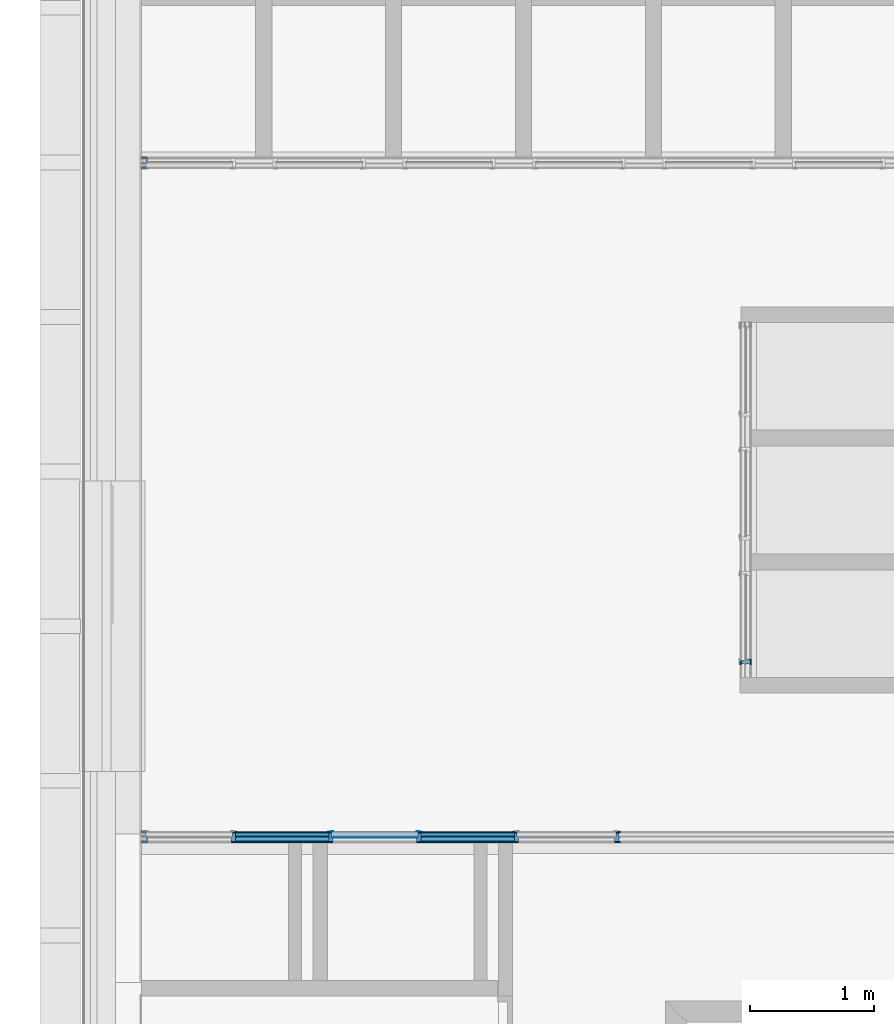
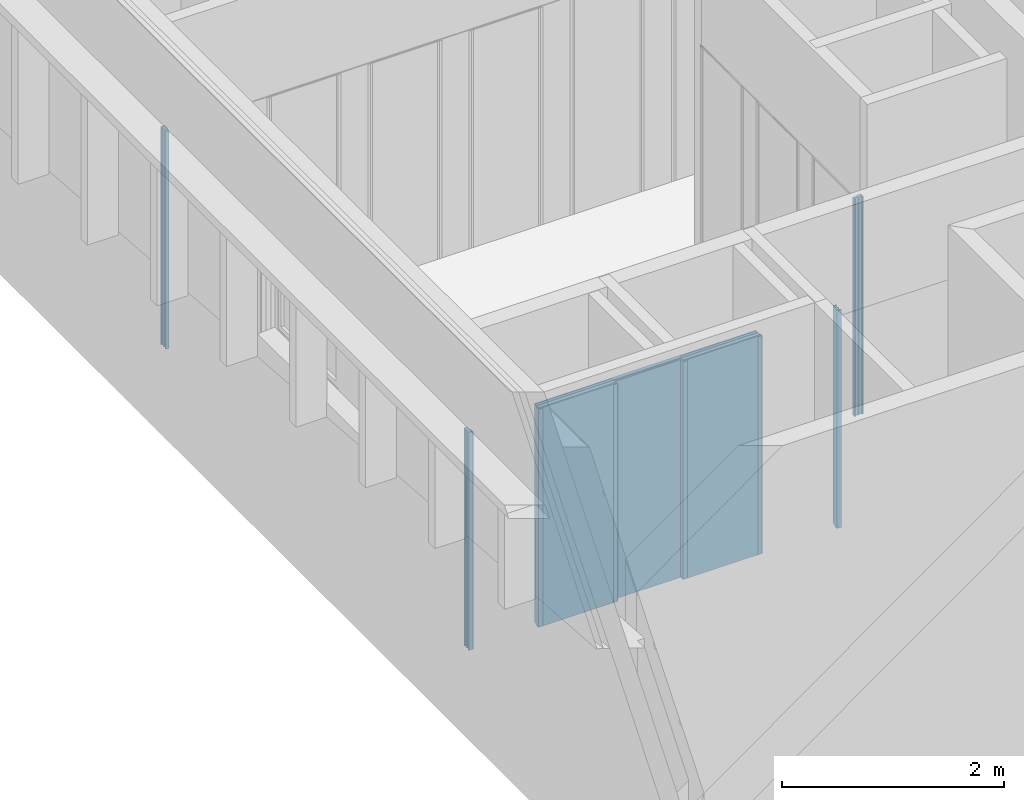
# One storey, part 18 of 89: 26 building element parts, 14 elements without a shape of their own.
"""IFC2X3 building model written with IfcOpenShell, lengths in millimetres."""

from ifc_helpers import new_model, entity, si_unit, converted_unit, derived_unit, money_unit, direction, frame, origin_with_axes, place, context, subcontext, project, spatial, open_shell, faceted_brep, surface_model, source, transform, mapped, material, type_object, element, aggregate, save


model = new_model("IFC2X3")

# Units and contexts
model_context = context("Model", 3, precision=0.01, world=origin_with_axes(), true_north=direction((0.0, 1.0)))
body_context = subcontext(model_context, "Body", "Model", "MODEL_VIEW")
ifc_project = project(units=[si_unit("LENGTHUNIT", "METRE", prefix="MILLI"), si_unit("AREAUNIT", "SQUARE_METRE"), si_unit("VOLUMEUNIT", "CUBIC_METRE"), converted_unit("PLANEANGLEUNIT", "DEGREE", entity("IfcPlaneAngleMeasure", 0.0174532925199), si_unit("PLANEANGLEUNIT", "RADIAN"), dimensions=[0, 0, 0, 0, 0, 0, 0]), si_unit("SOLIDANGLEUNIT", "STERADIAN"), money_unit("EUR"), converted_unit("TIMEUNIT", "Year", entity("IfcTimeMeasure", 31556926.0), si_unit("TIMEUNIT", "SECOND"), dimensions=[0, 0, 1, 0, 0, 0, 0]), si_unit("MASSUNIT", "GRAM", prefix="KILO"), si_unit("THERMODYNAMICTEMPERATUREUNIT", "DEGREE_CELSIUS"), si_unit("LUMINOUSINTENSITYUNIT", "LUMEN"), si_unit("ENERGYUNIT", "JOULE", prefix="MEGA"), derived_unit("THERMALCONDUCTANCEUNIT", [(si_unit("POWERUNIT", "WATT"), 1), (si_unit("LENGTHUNIT", "METRE"), -1), (si_unit("THERMODYNAMICTEMPERATUREUNIT", "KELVIN"), -1)]), derived_unit("SPECIFICHEATCAPACITYUNIT", [(si_unit("ENERGYUNIT", "JOULE"), 1), (si_unit("MASSUNIT", "GRAM", prefix="KILO"), -1), (si_unit("THERMODYNAMICTEMPERATUREUNIT", "KELVIN"), -1)]), derived_unit("MASSDENSITYUNIT", [(si_unit("MASSUNIT", "GRAM", prefix="KILO"), 1), (si_unit("VOLUMEUNIT", "CUBIC_METRE"), -1)])], contexts=[model_context])

# Site, building, storey
site_placement = place(None, origin_with_axes())
site = spatial("IfcSite", under=ifc_project, at=site_placement, Name="Puškini 31, Narva", CompositionType="ELEMENT")
building_placement = place(site_placement, origin_with_axes())
building = spatial("IfcBuilding", under=site, at=building_placement, Name="Narva Riigigümnaasium", CompositionType="ELEMENT")
storey_placement = place(building_placement, frame((0.0, 0.0, -3300.0), z_axis=(0.0, 0.0, 1.0), x_axis=(1.0, 0.0, 0.0)))
storey = spatial("IfcBuildingStorey", under=building, at=storey_placement, Name="1.korrus -3.3", CompositionType="ELEMENT", Elevation=-3300.0)

# Curtain wall, member, building element part
curtain_wall_type = type_object("IfcCurtainWallType", Name="Curtain Wall Type", PredefinedType="NOTDEFINED")
curtain_wall_1_placement = place(storey_placement, frame((33249.9999781, 201010.999711, -1.71671428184e-05), z_axis=(0.0, 0.0, 1.0), x_axis=(1.0, 0.0, 0.0)))
curtain_wall_1 = element("IfcCurtainWall", 1, at=curtain_wall_1_placement, inside=storey, type_object=curtain_wall_type, Name="SUS-02")
member_type_1 = type_object("IfcMemberType", Name="SA-Siseuksesüsteem-P 46 x 0", PredefinedType="MULLION")
member_1_placement = place(curtain_wall_1_placement, frame((0.0, -350.000000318, 0.0), z_axis=(0.0, 0.0, 1.0), x_axis=(0.0, -1.0, 0.0)))
member_1 = element("IfcMember", 2, at=member_1_placement, type_object=member_type_1, Name="Frame-SA-Siseuks-035", ObjectType="MULLION")
aggregate(curtain_wall_1, [member_1])
ifc_material_1 = material(Name="MDF")
shared_shape_1 = source(origin_with_axes(), body_context, "Body", "Brep", [
    faceted_brep([(33.9999997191, 9.99997870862, 0.0), (1.99999958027, 10.0000006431, 0.0), (1.99999958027, 10.0000006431, 2390.00000263), (33.9999997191, 9.99997870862, 2390.00000263), (33.9999997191, 0.0, 0.0), (1.99999958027, 0.0, 0.0), (1.99999958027, 0.0, 2390.00000263), (33.9999997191, 0.0, 2390.00000263)], [[[0, 1, 2, 3]], [[0, 4, 5, 1]], [[1, 5, 6, 2]], [[3, 2, 6, 7]], [[4, 0, 3, 7]], [[5, 4, 7, 6]]]),
    faceted_brep([(33.9999997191, 91.9999779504, 0.0), (-10.0000294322, 91.9999779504, 0.0), (-10.0000294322, 91.9999779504, 2390.00000263), (33.9999997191, 91.9999779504, 2390.00000263), (33.9999997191, 81.9999773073, 0.0), (-10.0000294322, 81.9999773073, 0.0), (-10.0000294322, 81.9999773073, 2390.00000263), (33.9999997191, 81.9999773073, 2390.00000263)], [[[0, 1, 2, 3]], [[0, 4, 5, 1]], [[1, 5, 6, 2]], [[3, 2, 6, 7]], [[4, 0, 3, 7]], [[5, 4, 7, 6]]]),
])
building_element_part_1_placement = place(member_1_placement, origin_with_axes())
building_element_part_1 = element("IfcBuildingElementPart", 3, at=building_element_part_1_placement, material=ifc_material_1, Name="MDF", context=body_context, shape_type="MappedRepresentation", body=[
    mapped(shared_shape_1, transform((0.0, 0.0, 0.0))),
])

# Curtain wall, members, building element parts
curtain_wall_2_placement = place(storey_placement, frame((28798.9958137, 199279.999716, 0.0), z_axis=(0.0, 0.0, 1.0), x_axis=(1.0, 0.0, 0.0)))
curtain_wall_2 = element("IfcCurtainWall", 4, at=curtain_wall_2_placement, inside=storey, type_object=curtain_wall_type, Name="SUS-01")
member_2_placement = place(curtain_wall_2_placement, frame((-350.004185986, 0.0, 0.0), z_axis=(0.0, 0.0, 1.0), x_axis=(-1.0, 0.0, 0.0)))
member_2 = element("IfcMember", 5, at=member_2_placement, type_object=member_type_1, Name="Frame-SA-Siseuks-038", ObjectType="MULLION")
building_element_part_2_placement = place(member_2_placement, origin_with_axes())
building_element_part_2 = element("IfcBuildingElementPart", 6, at=building_element_part_2_placement, material=ifc_material_1, Name="MDF", context=body_context, shape_type="MappedRepresentation", body=[
    mapped(shared_shape_1, transform((0.0, 0.0, 0.0))),
])
member_3_placement = place(curtain_wall_2_placement, frame((1150.00418599, 0.0, 0.0), z_axis=(0.0, 0.0, 1.0), x_axis=(-1.0, 0.0, 0.0)))
member_3 = element("IfcMember", 7, at=member_3_placement, type_object=member_type_1, Name="Frame-SA-Siseuks-039", ObjectType="MULLION")
building_element_part_3_placement = place(member_3_placement, origin_with_axes())
building_element_part_3 = element("IfcBuildingElementPart", 8, at=building_element_part_3_placement, material=ifc_material_1, Name="MDF", context=body_context, shape_type="MappedRepresentation", body=[
    mapped(shared_shape_1, transform((0.0, 0.0, 0.0))),
])
member_4_placement = place(curtain_wall_2_placement, frame((2650.00418599, 0.0, 0.0), z_axis=(0.0, 0.0, 1.0), x_axis=(-1.0, 0.0, 0.0)))
member_4 = element("IfcMember", 9, at=member_4_placement, type_object=member_type_1, Name="Frame-SA-Siseuks-040", ObjectType="MULLION")
building_element_part_4_placement = place(member_4_placement, origin_with_axes())
building_element_part_4 = element("IfcBuildingElementPart", 10, at=building_element_part_4_placement, material=ifc_material_1, Name="MDF", context=body_context, shape_type="MappedRepresentation", body=[
    mapped(shared_shape_1, transform((0.0, 0.0, 0.0))),
])

# Building element part
ifc_material_2 = material(Name="Alumiiniumprofiil")
shared_shape_2 = source(origin_with_axes(), body_context, "Body", "Brep", [
    faceted_brep([(-12.0000002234, 47.5000006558, 0.0), (0.0, 47.5000006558, 0.0), (0.0, 47.5000006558, 2390.00000263), (-12.0000002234, 47.5000006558, 2390.00000263), (-12.0000002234, 91.9999779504, 0.0), (-10.0000006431, 91.9999779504, 0.0), (-10.0000294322, 81.9999773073, 0.0), (-9.99999927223, 81.5000003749, 0.0), (24.2499991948, 81.5000003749, 0.0), (33.9999997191, 81.5000003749, 0.0), (33.9999997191, 78.0000000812, 0.0), (22.4999997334, 78.0000000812, 0.0), (22.4999997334, 47.600000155, 0.0), (33.9999997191, 47.600000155, 0.0), (33.9999997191, 44.3999997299, 0.0), (22.4999997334, 44.3999997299, 0.0), (22.4999997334, 13.9999998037, 0.0), (33.9999997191, 13.9999998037, 0.0), (33.9999997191, 9.99997870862, 0.0), (32.0000001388, 9.99997870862, 0.0), (32.0000001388, 10.49999951, 0.0), (2.00000095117, 10.49999951, 0.0), (1.99999958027, 10.0000006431, 0.0), (2.00000095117, 0.0, 0.0), (0.0, 0.0, 0.0), (0.0, 32.9000011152, 0.0), (0.0, 32.9000011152, 2390.00000263), (0.0, 0.0, 2390.00000263), (2.00000095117, 0.0, 2390.00000263), (1.99999958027, 10.0000006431, 2390.00000263), (2.00000095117, 10.49999951, 2390.00000263), (32.0000001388, 10.49999951, 2390.00000263), (32.0000001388, 9.99997870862, 2390.00000263), (33.9999997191, 9.99997870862, 2390.00000263), (33.9999997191, 13.9999998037, 2390.00000263), (22.4999997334, 13.9999998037, 2390.00000263), (22.4999997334, 44.3999997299, 2390.00000263), (33.9999997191, 44.3999997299, 2390.00000263), (33.9999997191, 47.600000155, 2390.00000263), (22.4999997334, 47.600000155, 2390.00000263), (22.4999997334, 78.0000000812, 2390.00000263), (33.9999997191, 78.0000000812, 2390.00000263), (33.9999997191, 81.5000003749, 2390.00000263), (24.2499991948, 81.5000003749, 2390.00000263), (-9.99999927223, 81.5000003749, 2390.00000263), (-10.0000294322, 81.9999773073, 2390.00000263), (-10.0000006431, 91.9999779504, 2390.00000263), (-12.0000002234, 91.9999779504, 2390.00000263)], [[[0, 1, 2, 3]], [[0, 4, 5, 6, 7, 8, 9, 10, 11, 12, 13, 14, 15, 16, 17, 18, 19, 20, 21, 22, 23, 24, 25, 1]], [[1, 25, 26, 2]], [[3, 2, 26, 27, 28, 29, 30, 31, 32, 33, 34, 35, 36, 37, 38, 39, 40, 41, 42, 43, 44, 45, 46, 47]], [[4, 0, 3, 47]], [[5, 4, 47, 46]], [[6, 5, 46, 45]], [[7, 6, 45, 44]], [[8, 7, 44, 43]], [[9, 8, 43, 42]], [[10, 9, 42, 41]], [[11, 10, 41, 40]], [[12, 11, 40, 39]], [[13, 12, 39, 38]], [[14, 13, 38, 37]], [[15, 14, 37, 36]], [[16, 15, 36, 35]], [[17, 16, 35, 34]], [[18, 17, 34, 33]], [[19, 18, 33, 32]], [[20, 19, 32, 31]], [[21, 20, 31, 30]], [[22, 21, 30, 29]], [[23, 22, 29, 28]], [[24, 23, 28, 27]], [[25, 24, 27, 26]]]),
])
building_element_part_5_placement = place(member_1_placement, origin_with_axes())
building_element_part_5 = element("IfcBuildingElementPart", 11, at=building_element_part_5_placement, material=ifc_material_2, Name="Alumiiniumprofiil", context=body_context, shape_type="MappedRepresentation", body=[
    mapped(shared_shape_2, transform((0.0, 0.0, 0.0))),
])

aggregate(member_1, [building_element_part_1, building_element_part_5])

building_element_part_6_placement = place(member_2_placement, origin_with_axes())
building_element_part_6 = element("IfcBuildingElementPart", 12, at=building_element_part_6_placement, material=ifc_material_2, Name="Alumiiniumprofiil", context=body_context, shape_type="MappedRepresentation", body=[
    mapped(shared_shape_2, transform((0.0, 0.0, 0.0))),
])

aggregate(member_2, [building_element_part_2, building_element_part_6])

building_element_part_7_placement = place(member_3_placement, origin_with_axes())
building_element_part_7 = element("IfcBuildingElementPart", 13, at=building_element_part_7_placement, material=ifc_material_2, Name="Alumiiniumprofiil", context=body_context, shape_type="MappedRepresentation", body=[
    mapped(shared_shape_2, transform((0.0, 0.0, 0.0))),
])

aggregate(member_3, [building_element_part_3, building_element_part_7])

building_element_part_8_placement = place(member_4_placement, origin_with_axes())
building_element_part_8 = element("IfcBuildingElementPart", 14, at=building_element_part_8_placement, material=ifc_material_2, Name="Alumiiniumprofiil", context=body_context, shape_type="MappedRepresentation", body=[
    mapped(shared_shape_2, transform((0.0, 0.0, 0.0))),
])

aggregate(member_4, [building_element_part_4, building_element_part_8])

# Member, building element part
member_type_2 = type_object("IfcMemberType", Name="SA-Siseuksesüsteem-V 46 x 0", PredefinedType="MULLION")
member_5_placement = place(curtain_wall_2_placement, frame((350.004185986, 0.0, 0.0), z_axis=(0.0, 0.0, 1.0), x_axis=(-1.0, 0.0, 0.0)))
member_5 = element("IfcMember", 15, at=member_5_placement, type_object=member_type_2, Name="Frame-New-Frame-039", ObjectType="MULLION")
shared_shape_3 = source(origin_with_axes(), body_context, "Body", "Brep", [
    faceted_brep([(-1.99999958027, 10.0000006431, 0.0), (-33.9999997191, 9.99997870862, 0.0), (-33.9999997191, 9.99997870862, 2390.00000263), (-1.99999958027, 10.0000006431, 2390.00000263), (-2.00000095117, 0.0, 0.0), (-33.9999997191, 0.0, 0.0), (-33.9999997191, 0.0, 2390.00000263), (-2.00000095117, 0.0, 2390.00000263)], [[[0, 1, 2, 3]], [[0, 4, 5, 1]], [[1, 5, 6, 2]], [[3, 2, 6, 7]], [[4, 0, 3, 7]], [[5, 4, 7, 6]]]),
    faceted_brep([(10.0000006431, 91.9999779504, 0.0), (-33.9999997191, 91.9999779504, 0.0), (-33.9999997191, 91.9999779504, 2390.00000263), (10.0000006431, 91.9999779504, 2390.00000263), (10.0000294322, 81.9999773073, 0.0), (-33.9999997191, 81.9999773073, 0.0), (-33.9999997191, 81.9999773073, 2390.00000263), (10.0000294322, 81.9999773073, 2390.00000263)], [[[0, 1, 2, 3]], [[0, 4, 5, 1]], [[1, 5, 6, 2]], [[3, 2, 6, 7]], [[4, 0, 3, 7]], [[5, 4, 7, 6]]]),
])
building_element_part_9_placement = place(member_5_placement, origin_with_axes())
building_element_part_9 = element("IfcBuildingElementPart", 16, at=building_element_part_9_placement, material=ifc_material_1, Name="MDF", context=body_context, shape_type="MappedRepresentation", body=[
    mapped(shared_shape_3, transform((0.0, 0.0, 0.0))),
])

member_6_placement = place(curtain_wall_2_placement, frame((1850.00418599, 0.0, 0.0), z_axis=(0.0, 0.0, 1.0), x_axis=(-1.0, 0.0, 0.0)))
member_6 = element("IfcMember", 17, at=member_6_placement, type_object=member_type_2, Name="Frame-New-Frame-040", ObjectType="MULLION")
building_element_part_10_placement = place(member_6_placement, origin_with_axes())
building_element_part_10 = element("IfcBuildingElementPart", 18, at=building_element_part_10_placement, material=ifc_material_1, Name="MDF", context=body_context, shape_type="MappedRepresentation", body=[
    mapped(shared_shape_3, transform((0.0, 0.0, 0.0))),
])

member_7_placement = place(curtain_wall_2_placement, frame((3450.00418599, 0.0, 0.0), z_axis=(0.0, 0.0, 1.0), x_axis=(-1.0, 0.0, 0.0)))
member_7 = element("IfcMember", 19, at=member_7_placement, type_object=member_type_2, Name="Frame-New-Frame-041", ObjectType="MULLION")
building_element_part_11_placement = place(member_7_placement, origin_with_axes())
building_element_part_11 = element("IfcBuildingElementPart", 20, at=building_element_part_11_placement, material=ifc_material_1, Name="MDF", context=body_context, shape_type="MappedRepresentation", body=[
    mapped(shared_shape_3, transform((0.0, 0.0, 0.0))),
])

# Curtain wall, member, building element part
curtain_wall_3_placement = place(storey_placement, frame((34541.9999996, 204639.999743, 1.06559201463e-05), z_axis=(0.0, 0.0, 1.0), x_axis=(1.0, 0.0, 0.0)))
curtain_wall_3 = element("IfcCurtainWall", 21, at=curtain_wall_3_placement, inside=storey, type_object=curtain_wall_type, Name="SUS-03")
member_type_3 = type_object("IfcMemberType", Name="SA-Siseuksesüsteem-V 46 x -10", PredefinedType="MULLION")
member_8_placement = place(curtain_wall_3_placement, frame((-6093.17516676, 0.0, -1.06559197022e-05), z_axis=(0.0, 0.0, 1.0), x_axis=(1.0, 0.0, 0.0)))
member_8 = element("IfcMember", 22, at=member_8_placement, type_object=member_type_3, Name="Frame-SA-Siseuks-035", ObjectType="MULLION")
aggregate(curtain_wall_3, [member_8])
building_element_part_12_placement = place(member_8_placement, origin_with_axes())
building_element_part_12 = element("IfcBuildingElementPart", 23, at=building_element_part_12_placement, material=ifc_material_1, Name="MDF", context=body_context, shape_type="MappedRepresentation", body=[
    mapped(shared_shape_3, transform((0.0, 0.0, 0.0))),
])

# Building element part
shared_shape_4 = source(origin_with_axes(), body_context, "Body", "Brep", [
    faceted_brep([(12.0000002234, 47.5000006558, 0.0), (12.0000002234, 91.9999779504, 0.0), (12.0000002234, 91.9999779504, 2390.00000263), (12.0000002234, 47.5000006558, 2390.00000263), (0.0, 47.5000006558, 0.0), (0.0, 32.9000011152, 0.0), (0.0, 0.0, 0.0), (-2.00000095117, 0.0, 0.0), (-1.99999958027, 10.0000006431, 0.0), (-2.00000095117, 10.49999951, 0.0), (-32.0000001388, 10.49999951, 0.0), (-32.0000001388, 9.99997870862, 0.0), (-33.9999997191, 9.99997870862, 0.0), (-33.9999997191, 13.9999998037, 0.0), (-22.4999997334, 13.9999998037, 0.0), (-22.4999997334, 44.3999997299, 0.0), (-33.9999997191, 44.3999997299, 0.0), (-33.9999997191, 47.600000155, 0.0), (-22.4999997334, 47.600000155, 0.0), (-22.4999997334, 78.0000000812, 0.0), (-33.9999997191, 78.0000000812, 0.0), (-33.9999997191, 81.5000003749, 0.0), (-24.2499991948, 81.5000003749, 0.0), (9.99999927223, 81.5000003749, 0.0), (10.0000294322, 81.9999773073, 0.0), (10.0000006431, 91.9999779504, 0.0), (10.0000006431, 91.9999779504, 2390.00000263), (10.0000294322, 81.9999773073, 2390.00000263), (9.99999927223, 81.5000003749, 2390.00000263), (-24.2499991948, 81.5000003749, 2390.00000263), (-33.9999997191, 81.5000003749, 2390.00000263), (-33.9999997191, 78.0000000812, 2390.00000263), (-22.4999997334, 78.0000000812, 2390.00000263), (-22.4999997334, 47.600000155, 2390.00000263), (-33.9999997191, 47.600000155, 2390.00000263), (-33.9999997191, 44.3999997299, 2390.00000263), (-22.4999997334, 44.3999997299, 2390.00000263), (-22.4999997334, 13.9999998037, 2390.00000263), (-33.9999997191, 13.9999998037, 2390.00000263), (-33.9999997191, 9.99997870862, 2390.00000263), (-32.0000001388, 9.99997870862, 2390.00000263), (-32.0000001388, 10.49999951, 2390.00000263), (-2.00000095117, 10.49999951, 2390.00000263), (-1.99999958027, 10.0000006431, 2390.00000263), (-2.00000095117, 0.0, 2390.00000263), (0.0, 0.0, 2390.00000263), (0.0, 32.9000011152, 2390.00000263), (0.0, 47.5000006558, 2390.00000263)], [[[0, 1, 2, 3]], [[0, 4, 5, 6, 7, 8, 9, 10, 11, 12, 13, 14, 15, 16, 17, 18, 19, 20, 21, 22, 23, 24, 25, 1]], [[1, 25, 26, 2]], [[3, 2, 26, 27, 28, 29, 30, 31, 32, 33, 34, 35, 36, 37, 38, 39, 40, 41, 42, 43, 44, 45, 46, 47]], [[4, 0, 3, 47]], [[5, 4, 47, 46]], [[6, 5, 46, 45]], [[7, 6, 45, 44]], [[8, 7, 44, 43]], [[9, 8, 43, 42]], [[10, 9, 42, 41]], [[11, 10, 41, 40]], [[12, 11, 40, 39]], [[13, 12, 39, 38]], [[14, 13, 38, 37]], [[15, 14, 37, 36]], [[16, 15, 36, 35]], [[17, 16, 35, 34]], [[18, 17, 34, 33]], [[19, 18, 33, 32]], [[20, 19, 32, 31]], [[21, 20, 31, 30]], [[22, 21, 30, 29]], [[23, 22, 29, 28]], [[24, 23, 28, 27]], [[25, 24, 27, 26]]]),
])
building_element_part_13_placement = place(member_5_placement, origin_with_axes())
building_element_part_13 = element("IfcBuildingElementPart", 24, at=building_element_part_13_placement, material=ifc_material_2, Name="Alumiiniumprofiil", context=body_context, shape_type="MappedRepresentation", body=[
    mapped(shared_shape_4, transform((0.0, 0.0, 0.0))),
])

aggregate(member_5, [building_element_part_9, building_element_part_13])

building_element_part_14_placement = place(member_6_placement, origin_with_axes())
building_element_part_14 = element("IfcBuildingElementPart", 25, at=building_element_part_14_placement, material=ifc_material_2, Name="Alumiiniumprofiil", context=body_context, shape_type="MappedRepresentation", body=[
    mapped(shared_shape_4, transform((0.0, 0.0, 0.0))),
])

aggregate(member_6, [building_element_part_10, building_element_part_14])

building_element_part_15_placement = place(member_7_placement, origin_with_axes())
building_element_part_15 = element("IfcBuildingElementPart", 26, at=building_element_part_15_placement, material=ifc_material_2, Name="Alumiiniumprofiil", context=body_context, shape_type="MappedRepresentation", body=[
    mapped(shared_shape_4, transform((0.0, 0.0, 0.0))),
])

aggregate(member_7, [building_element_part_11, building_element_part_15])

building_element_part_16_placement = place(member_8_placement, origin_with_axes())
building_element_part_16 = element("IfcBuildingElementPart", 27, at=building_element_part_16_placement, material=ifc_material_2, Name="Alumiiniumprofiil", context=body_context, shape_type="MappedRepresentation", body=[
    mapped(shared_shape_4, transform((0.0, 0.0, 0.0))),
])

aggregate(member_8, [building_element_part_12, building_element_part_16])

# Door, building element parts
door_style = type_object("IfcDoorStyle", Name="SU-Sile 7 x 2390 x 0", ConstructionType="NOTDEFINED", OperationType="NOTDEFINED", ParameterTakesPrecedence=False, Sizeable=False)
door_placement = place(curtain_wall_2_placement, frame((1500.00418599, 0.0, 1194.9999686), z_axis=(0.0, 0.0, 1.0), x_axis=(-1.0, 0.0, 0.0)))
door = element("IfcDoor", 28, at=door_placement, type_object=door_style, Name="G-SU-016", ObjectType="DOOR")
ifc_material_3 = material(Name="Alumiiniumprofiil (RAL 7021)")
shared_shape_5 = source(origin_with_axes(), body_context, "Body", "SurfaceModel", [
    surface_model("IfcShellBasedSurfaceModel", [(700.000013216, 0.0, 50.0), (688.000013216, 0.0, 50.0), (688.000013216, 2389.9999372, 50.0), (700.000013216, 2401.9999372, 50.0)], [open_shell([[[0, 1, 2, 3]]])]),
    surface_model("IfcShellBasedSurfaceModel", [(688.000013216, 2389.9999372, 50.0), (12.0000014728, 2389.9999372, 50.0), (1.47284895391e-06, 2401.9999372, 50.0), (700.000013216, 2401.9999372, 50.0)], [open_shell([[[0, 1, 2, 3]]])]),
    surface_model("IfcShellBasedSurfaceModel", [(12.0000014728, 2389.9999372, 50.0), (12.0000014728, 0.0, 50.0), (1.47284895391e-06, 0.0, 50.0), (1.47284895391e-06, 2401.9999372, 50.0)], [open_shell([[[0, 1, 2, 3]]])]),
    surface_model("IfcShellBasedSurfaceModel", [(707.000016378, 0.0, 0.0), (688.000013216, 0.0, 0.0), (688.000013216, 2389.9999372, 0.0), (707.000016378, 2389.9999372, 0.0)], [open_shell([[[0, 1, 2, 3]]])]),
    surface_model("IfcShellBasedSurfaceModel", [(-7.00000002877, 2389.9999372, 0.0), (12.0000014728, 2389.9999372, 0.0), (12.0000014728, 0.0, 0.0), (-7.00000002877, 0.0, 0.0)], [open_shell([[[0, 1, 2, 3]]])]),
])
building_element_part_17_placement = place(door_placement, origin_with_axes())
building_element_part_17 = element("IfcBuildingElementPart", 29, at=building_element_part_17_placement, material=ifc_material_3, Name="Alumiiniumprofiil (RAL 7021)", context=body_context, shape_type="MappedRepresentation", body=[
    mapped(shared_shape_5, transform((350.0, 0.0, -1194.9999686), x_axis=(-1.0, 0.0, 0.0), y_axis=(0.0, 0.0, 1.0), z_axis=(0.0, 1.0, 0.0))),
])
shared_shape_6 = source(origin_with_axes(), body_context, "Body", "Brep", [
    faceted_brep([(1.47284850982e-06, 0.0, 38.1818181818), (1.47284850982e-06, 0.0, 0.0), (700.000013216, 0.0, 0.0), (700.000013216, 0.0, 38.1818181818), (1.47284850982e-06, 2401.9999372, 38.1818181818), (1.47284850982e-06, 2401.9999372, 0.0), (700.000013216, 2401.9999372, 0.0), (700.000013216, 2401.9999372, 38.1818181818)], [[[0, 1, 2, 3]], [[4, 5, 1, 0]], [[1, 5, 6, 2]], [[3, 2, 6, 7]], [[0, 3, 7, 4]], [[7, 6, 5, 4]]]),
    faceted_brep([(12.0000016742, 0.0, 50.0), (12.0000016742, 0.0, 38.1818181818), (688.000013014, 0.0, 38.1818181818), (688.000013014, 0.0, 50.0), (12.0000016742, 2388.27422328, 50.0), (12.0000016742, 2388.27422328, 38.1818181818), (688.000013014, 2388.27422328, 38.1818181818), (688.000013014, 2388.27422328, 50.0)], [[[0, 1, 2, 3]], [[4, 5, 1, 0]], [[1, 5, 6, 2]], [[3, 2, 6, 7]], [[0, 3, 7, 4]], [[7, 6, 5, 4]]]),
])
building_element_part_18_placement = place(door_placement, origin_with_axes())
building_element_part_18 = element("IfcBuildingElementPart", 30, at=building_element_part_18_placement, material=ifc_material_1, Name="MDF", context=body_context, shape_type="MappedRepresentation", body=[
    mapped(shared_shape_6, transform((350.0, 0.0, -1194.9999686), x_axis=(-1.0, 0.0, 0.0), y_axis=(0.0, 0.0, 1.0), z_axis=(0.0, 1.0, 0.0))),
])
aggregate(door, [building_element_part_17, building_element_part_18])

# Plate, building element part
plate_type = type_object("IfcPlateType", Name="SA-Siseuksesüsteem-Paneel 800 x 10 x 0", PredefinedType="CURTAIN_PANEL")
plate_1_placement = place(curtain_wall_2_placement, frame((750.004185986, 0.0, 1596.6666248), z_axis=(0.0, 0.0, 1.0), x_axis=(-1.0, 0.0, 0.0)))
plate_1 = element("IfcPlate", 31, at=plate_1_placement, type_object=plate_type, Name="Panel-SA-Siseuks-086", ObjectType="CURTAIN_PANEL")
shared_shape_7 = source(origin_with_axes(), body_context, "Body", "Brep", [
    faceted_brep([(800.000014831, 2399.9999372, 0.0), (0.0, 2399.9999372, 0.0), (0.0, 2399.9999372, 10.0), (800.000014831, 2399.9999372, 10.0), (800.000014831, 2389.99993747, 0.0), (766.000015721, 2389.99993747, 0.0), (766.000015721, 0.0, 0.0), (33.9999991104, 0.0, 0.0), (33.9999991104, 2389.99993747, 0.0), (0.0, 2389.99993747, 0.0), (0.0, 2389.99993747, 10.0), (33.9999991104, 2389.99993747, 10.0), (33.9999991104, 0.0, 10.0), (766.000015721, 0.0, 10.0), (766.000015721, 2389.99993747, 10.0), (800.000014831, 2389.99993747, 10.0)], [[[0, 1, 2, 3]], [[0, 4, 5, 6, 7, 8, 9, 1]], [[1, 9, 10, 2]], [[3, 2, 10, 11, 12, 13, 14, 15]], [[4, 0, 3, 15]], [[5, 4, 15, 14]], [[6, 5, 14, 13]], [[7, 6, 13, 12]], [[8, 7, 12, 11]], [[9, 8, 11, 10]]]),
    faceted_brep([(800.000014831, 2399.9999372, 84.0), (0.0, 2399.9999372, 84.0), (0.0, 2399.9999372, 92.0), (800.000014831, 2399.9999372, 92.0), (800.000014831, 2389.99993747, 84.0), (766.000015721, 2389.99993747, 84.0), (766.000015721, 0.0, 84.0), (33.9999991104, 0.0, 84.0), (33.9999991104, 2389.99993747, 84.0), (0.0, 2389.99993747, 84.0), (0.0, 2389.99993747, 92.0), (33.9999991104, 2389.99993747, 92.0), (33.9999991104, 0.0, 92.0), (766.000015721, 0.0, 92.0), (766.000015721, 2389.99993747, 92.0), (800.000014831, 2389.99993747, 92.0)], [[[0, 1, 2, 3]], [[0, 4, 5, 6, 7, 8, 9, 1]], [[1, 9, 10, 2]], [[3, 2, 10, 11, 12, 13, 14, 15]], [[4, 0, 3, 15]], [[5, 4, 15, 14]], [[6, 5, 14, 13]], [[7, 6, 13, 12]], [[8, 7, 12, 11]], [[9, 8, 11, 10]]]),
])
building_element_part_19_placement = place(plate_1_placement, origin_with_axes())
building_element_part_19 = element("IfcBuildingElementPart", 32, at=building_element_part_19_placement, material=ifc_material_1, Name="MDF", context=body_context, shape_type="MappedRepresentation", body=[
    mapped(shared_shape_7, transform((400.0, 0.0, -1596.6666248), x_axis=(-1.0, 0.0, 0.0), y_axis=(0.0, 0.0, 1.0), z_axis=(0.0, 1.0, 0.0))),
])

# Plate
plate_2_placement = place(curtain_wall_2_placement, frame((2250.00418599, 0.0, 1596.6666248), z_axis=(0.0, 0.0, 1.0), x_axis=(-1.0, 0.0, 0.0)))
plate_2 = element("IfcPlate", 33, at=plate_2_placement, type_object=plate_type, Name="Panel-SA-Siseuks-087", ObjectType="CURTAIN_PANEL")

aggregate(curtain_wall_2, [door, member_2, member_5, member_3, member_6, member_4, member_7, plate_1, plate_2])

# Building element part
building_element_part_20_placement = place(plate_2_placement, origin_with_axes())
building_element_part_20 = element("IfcBuildingElementPart", 34, at=building_element_part_20_placement, material=ifc_material_1, Name="MDF", context=body_context, shape_type="MappedRepresentation", body=[
    mapped(shared_shape_7, transform((400.0, 0.0, -1596.6666248), x_axis=(-1.0, 0.0, 0.0), y_axis=(0.0, 0.0, 1.0), z_axis=(0.0, 1.0, 0.0))),
])

ifc_material_4 = material(Name="Õhkvahe")
shared_shape_8 = source(origin_with_axes(), body_context, "Body", "Brep", [
    faceted_brep([(800.000014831, 2399.9999372, 10.0), (0.0, 2399.9999372, 10.0), (0.0, 2399.9999372, 12.0), (800.000014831, 2399.9999372, 12.0), (800.000014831, 2389.99993747, 10.0), (766.000015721, 2389.99993747, 10.0), (766.000015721, 0.0, 10.0), (33.9999991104, 0.0, 10.0), (33.9999991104, 2389.99993747, 10.0), (0.0, 2389.99993747, 10.0), (0.0, 2389.99993747, 12.0), (33.9999991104, 2389.99993747, 12.0), (33.9999991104, 0.0, 12.0), (766.000015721, 0.0, 12.0), (766.000015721, 2389.99993747, 12.0), (800.000014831, 2389.99993747, 12.0)], [[[0, 1, 2, 3]], [[0, 4, 5, 6, 7, 8, 9, 1]], [[1, 9, 10, 2]], [[3, 2, 10, 11, 12, 13, 14, 15]], [[4, 0, 3, 15]], [[5, 4, 15, 14]], [[6, 5, 14, 13]], [[7, 6, 13, 12]], [[8, 7, 12, 11]], [[9, 8, 11, 10]]]),
    faceted_brep([(800.000014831, 2399.9999372, 38.0), (0.0, 2399.9999372, 38.0), (0.0, 2399.9999372, 42.0), (800.000014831, 2399.9999372, 42.0), (800.000014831, 2389.99993747, 38.0), (766.000015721, 2389.99993747, 38.0), (766.000015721, 0.0, 38.0), (33.9999991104, 0.0, 38.0), (33.9999991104, 2389.99993747, 38.0), (0.0, 2389.99993747, 38.0), (0.0, 2389.99993747, 42.0), (33.9999991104, 2389.99993747, 42.0), (33.9999991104, 0.0, 42.0), (766.000015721, 0.0, 42.0), (766.000015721, 2389.99993747, 42.0), (800.000014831, 2389.99993747, 42.0)], [[[0, 1, 2, 3]], [[0, 4, 5, 6, 7, 8, 9, 1]], [[1, 9, 10, 2]], [[3, 2, 10, 11, 12, 13, 14, 15]], [[4, 0, 3, 15]], [[5, 4, 15, 14]], [[6, 5, 14, 13]], [[7, 6, 13, 12]], [[8, 7, 12, 11]], [[9, 8, 11, 10]]]),
    faceted_brep([(800.000014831, 2399.9999372, 79.0), (0.0, 2399.9999372, 79.0), (0.0, 2399.9999372, 84.0), (800.000014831, 2399.9999372, 84.0), (800.000014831, 2389.99993747, 79.0), (766.000015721, 2389.99993747, 79.0), (766.000015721, 0.0, 79.0), (33.9999991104, 0.0, 79.0), (33.9999991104, 2389.99993747, 79.0), (0.0, 2389.99993747, 79.0), (0.0, 2389.99993747, 84.0), (33.9999991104, 2389.99993747, 84.0), (33.9999991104, 0.0, 84.0), (766.000015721, 0.0, 84.0), (766.000015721, 2389.99993747, 84.0), (800.000014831, 2389.99993747, 84.0)], [[[0, 1, 2, 3]], [[0, 4, 5, 6, 7, 8, 9, 1]], [[1, 9, 10, 2]], [[3, 2, 10, 11, 12, 13, 14, 15]], [[4, 0, 3, 15]], [[5, 4, 15, 14]], [[6, 5, 14, 13]], [[7, 6, 13, 12]], [[8, 7, 12, 11]], [[9, 8, 11, 10]]]),
])
building_element_part_21_placement = place(plate_1_placement, origin_with_axes())
building_element_part_21 = element("IfcBuildingElementPart", 35, at=building_element_part_21_placement, material=ifc_material_4, Name="Õhkvahe", context=body_context, shape_type="MappedRepresentation", body=[
    mapped(shared_shape_8, transform((400.0, 0.0, -1596.6666248), x_axis=(-1.0, 0.0, 0.0), y_axis=(0.0, 0.0, 1.0), z_axis=(0.0, 1.0, 0.0))),
])

building_element_part_22_placement = place(plate_2_placement, origin_with_axes())
building_element_part_22 = element("IfcBuildingElementPart", 36, at=building_element_part_22_placement, material=ifc_material_4, Name="Õhkvahe", context=body_context, shape_type="MappedRepresentation", body=[
    mapped(shared_shape_8, transform((400.0, 0.0, -1596.6666248), x_axis=(-1.0, 0.0, 0.0), y_axis=(0.0, 0.0, 1.0), z_axis=(0.0, 1.0, 0.0))),
])

ifc_material_5 = material(Name="Kipsplaat")
shared_shape_9 = source(origin_with_axes(), body_context, "Body", "Brep", [
    faceted_brep([(800.000014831, 2399.9999372, 12.0), (0.0, 2399.9999372, 12.0), (0.0, 2399.9999372, 25.0), (800.000014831, 2399.9999372, 25.0), (800.000014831, 2389.99993747, 12.0), (766.000015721, 2389.99993747, 12.0), (766.000015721, 0.0, 12.0), (33.9999991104, 0.0, 12.0), (33.9999991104, 2389.99993747, 12.0), (0.0, 2389.99993747, 12.0), (0.0, 2389.99993747, 25.0), (33.9999991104, 2389.99993747, 25.0), (33.9999991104, 0.0, 25.0), (766.000015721, 0.0, 25.0), (766.000015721, 2389.99993747, 25.0), (800.000014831, 2389.99993747, 25.0)], [[[0, 1, 2, 3]], [[0, 4, 5, 6, 7, 8, 9, 1]], [[1, 9, 10, 2]], [[3, 2, 10, 11, 12, 13, 14, 15]], [[4, 0, 3, 15]], [[5, 4, 15, 14]], [[6, 5, 14, 13]], [[7, 6, 13, 12]], [[8, 7, 12, 11]], [[9, 8, 11, 10]]]),
    faceted_brep([(800.000014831, 2399.9999372, 25.0), (0.0, 2399.9999372, 25.0), (0.0, 2399.9999372, 38.0), (800.000014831, 2399.9999372, 38.0), (800.000014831, 2389.99993747, 25.0), (766.000015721, 2389.99993747, 25.0), (766.000015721, 0.0, 25.0), (33.9999991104, 0.0, 25.0), (33.9999991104, 2389.99993747, 25.0), (0.0, 2389.99993747, 25.0), (0.0, 2389.99993747, 38.0), (33.9999991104, 2389.99993747, 38.0), (33.9999991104, 0.0, 38.0), (766.000015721, 0.0, 38.0), (766.000015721, 2389.99993747, 38.0), (800.000014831, 2389.99993747, 38.0)], [[[0, 1, 2, 3]], [[0, 4, 5, 6, 7, 8, 9, 1]], [[1, 9, 10, 2]], [[3, 2, 10, 11, 12, 13, 14, 15]], [[4, 0, 3, 15]], [[5, 4, 15, 14]], [[6, 5, 14, 13]], [[7, 6, 13, 12]], [[8, 7, 12, 11]], [[9, 8, 11, 10]]]),
])
building_element_part_23_placement = place(plate_1_placement, origin_with_axes())
building_element_part_23 = element("IfcBuildingElementPart", 37, at=building_element_part_23_placement, material=ifc_material_5, Name="Kipsplaat", context=body_context, shape_type="MappedRepresentation", body=[
    mapped(shared_shape_9, transform((400.0, 0.0, -1596.6666248), x_axis=(-1.0, 0.0, 0.0), y_axis=(0.0, 0.0, 1.0), z_axis=(0.0, 1.0, 0.0))),
])

building_element_part_24_placement = place(plate_2_placement, origin_with_axes())
building_element_part_24 = element("IfcBuildingElementPart", 38, at=building_element_part_24_placement, material=ifc_material_5, Name="Kipsplaat", context=body_context, shape_type="MappedRepresentation", body=[
    mapped(shared_shape_9, transform((400.0, 0.0, -1596.6666248), x_axis=(-1.0, 0.0, 0.0), y_axis=(0.0, 0.0, 1.0), z_axis=(0.0, 1.0, 0.0))),
])

ifc_material_6 = material(Name="Klaasvill")
shared_shape_10 = source(origin_with_axes(), body_context, "Body", "Brep", [
    faceted_brep([(800.000014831, 2399.9999372, 42.0), (0.0, 2399.9999372, 42.0), (0.0, 2399.9999372, 79.0), (800.000014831, 2399.9999372, 79.0), (800.000014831, 2389.99993747, 42.0), (766.000015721, 2389.99993747, 42.0), (766.000015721, 0.0, 42.0), (33.9999991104, 0.0, 42.0), (33.9999991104, 2389.99993747, 42.0), (0.0, 2389.99993747, 42.0), (0.0, 2389.99993747, 79.0), (33.9999991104, 2389.99993747, 79.0), (33.9999991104, 0.0, 79.0), (766.000015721, 0.0, 79.0), (766.000015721, 2389.99993747, 79.0), (800.000014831, 2389.99993747, 79.0)], [[[0, 1, 2, 3]], [[0, 4, 5, 6, 7, 8, 9, 1]], [[1, 9, 10, 2]], [[3, 2, 10, 11, 12, 13, 14, 15]], [[4, 0, 3, 15]], [[5, 4, 15, 14]], [[6, 5, 14, 13]], [[7, 6, 13, 12]], [[8, 7, 12, 11]], [[9, 8, 11, 10]]]),
])
building_element_part_25_placement = place(plate_1_placement, origin_with_axes())
building_element_part_25 = element("IfcBuildingElementPart", 39, at=building_element_part_25_placement, material=ifc_material_6, Name="Klaasvill", context=body_context, shape_type="MappedRepresentation", body=[
    mapped(shared_shape_10, transform((400.0, 0.0, -1596.6666248), x_axis=(-1.0, 0.0, 0.0), y_axis=(0.0, 0.0, 1.0), z_axis=(0.0, 1.0, 0.0))),
])

aggregate(plate_1, [building_element_part_19, building_element_part_21, building_element_part_23, building_element_part_25])

building_element_part_26_placement = place(plate_2_placement, origin_with_axes())
building_element_part_26 = element("IfcBuildingElementPart", 40, at=building_element_part_26_placement, material=ifc_material_6, Name="Klaasvill", context=body_context, shape_type="MappedRepresentation", body=[
    mapped(shared_shape_10, transform((400.0, 0.0, -1596.6666248), x_axis=(-1.0, 0.0, 0.0), y_axis=(0.0, 0.0, 1.0), z_axis=(0.0, 1.0, 0.0))),
])

aggregate(plate_2, [building_element_part_20, building_element_part_22, building_element_part_24, building_element_part_26])

save(model, "model.ifc")
